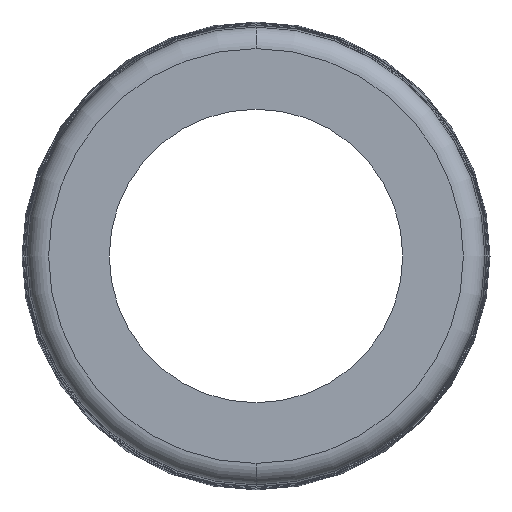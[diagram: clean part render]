
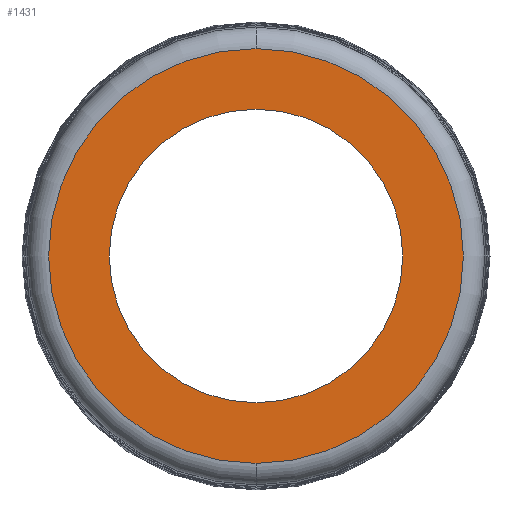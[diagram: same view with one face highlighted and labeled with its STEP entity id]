
A CAD part, front view. The second image highlights one B-rep face of the part: STEP entity #1431.
In plain terms, the highlighted planar face has unit normal (0, -1, 0).
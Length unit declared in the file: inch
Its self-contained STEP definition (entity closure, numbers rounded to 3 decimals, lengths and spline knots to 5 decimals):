
#138=CARTESIAN_POINT('',(0.2735,-0.39517,0.0));
#139=VERTEX_POINT('',#138);
#155=CARTESIAN_POINT('',(-0.2735,-0.39517,0.));
#156=VERTEX_POINT('',#155);
#163=CARTESIAN_POINT('',(0.,-0.39517,0.0));
#164=DIRECTION('',(0.0,-1.0,0.0));
#165=DIRECTION('',(1.0,0.0,0.0));
#166=AXIS2_PLACEMENT_3D('',#163,#164,#165);
#167=CIRCLE('',#166,0.2735);
#168=EDGE_CURVE('',#156,#139,#167,.T.);
#180=CARTESIAN_POINT('',(0.,-0.39517,-0.38646));
#181=VERTEX_POINT('',#180);
#207=CARTESIAN_POINT('',(0.,-0.39517,0.38646));
#208=VERTEX_POINT('',#207);
#216=CARTESIAN_POINT('',(0.38646,-0.39517,0.0));
#217=VERTEX_POINT('',#216);
#218=CARTESIAN_POINT('',(0.,-0.39517,0.0));
#219=DIRECTION('',(0.0,-1.0,0.0));
#220=DIRECTION('',(1.0,0.0,0.0));
#221=AXIS2_PLACEMENT_3D('',#218,#219,#220);
#222=CIRCLE('',#221,0.38646);
#223=EDGE_CURVE('',#217,#208,#222,.T.);
#225=CARTESIAN_POINT('',(0.,-0.39517,0.0));
#226=DIRECTION('',(0.0,-1.0,0.0));
#227=DIRECTION('',(1.0,0.0,0.0));
#228=AXIS2_PLACEMENT_3D('',#225,#226,#227);
#229=CIRCLE('',#228,0.38646);
#230=EDGE_CURVE('',#181,#217,#229,.T.);
#1399=CARTESIAN_POINT('',(0.,-0.39517,0.0));
#1400=DIRECTION('',(0.0,-1.0,0.0));
#1401=DIRECTION('',(1.0,0.0,0.0));
#1402=AXIS2_PLACEMENT_3D('',#1399,#1400,#1401);
#1403=CIRCLE('',#1402,0.38646);
#1404=EDGE_CURVE('',#208,#181,#1403,.T.);
#1411=CARTESIAN_POINT('',(0.32998,-0.39517,0.0));
#1412=DIRECTION('',(0.0,-1.0,0.0));
#1413=DIRECTION('',(0.0,0.0,-1.0));
#1414=AXIS2_PLACEMENT_3D('',#1411,#1412,#1413);
#1415=PLANE('',#1414);
#1416=ORIENTED_EDGE('',*,*,#223,.T.);
#1417=ORIENTED_EDGE('',*,*,#1404,.T.);
#1418=ORIENTED_EDGE('',*,*,#230,.T.);
#1419=EDGE_LOOP('',(#1416,#1417,#1418));
#1420=FACE_OUTER_BOUND('',#1419,.T.);
#1421=CARTESIAN_POINT('',(0.,-0.39517,0.0));
#1422=DIRECTION('',(0.0,-1.0,0.0));
#1423=DIRECTION('',(1.0,0.0,0.0));
#1424=AXIS2_PLACEMENT_3D('',#1421,#1422,#1423);
#1425=CIRCLE('',#1424,0.2735);
#1426=EDGE_CURVE('',#139,#156,#1425,.T.);
#1427=ORIENTED_EDGE('',*,*,#1426,.F.);
#1428=ORIENTED_EDGE('',*,*,#168,.F.);
#1429=EDGE_LOOP('',(#1427,#1428));
#1430=FACE_BOUND('',#1429,.T.);
#1431=ADVANCED_FACE('',(#1420,#1430),#1415,.T.);
